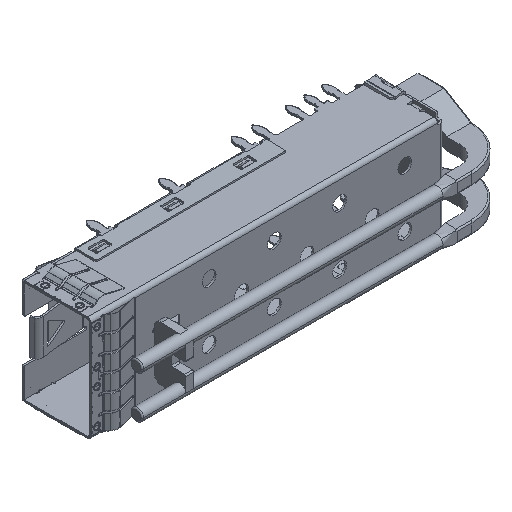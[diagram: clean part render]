
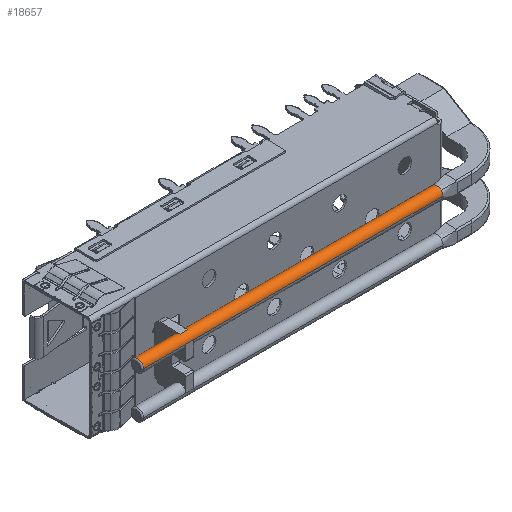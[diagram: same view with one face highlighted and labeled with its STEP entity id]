
A CAD part, isometric view. The second image highlights one B-rep face of the part: STEP entity #18657.
In plain terms, the highlighted cylindrical face has radius 0.825 mm (diameter 1.65 mm), a partial arc.
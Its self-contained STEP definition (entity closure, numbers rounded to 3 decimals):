
#465 = VECTOR ( 'NONE', #21842, 1000. ) ;
#508 = LINE ( 'NONE', #21865, #465 ) ;
#713 = VECTOR ( 'NONE', #22013, 1000. ) ;
#788 = LINE ( 'NONE', #22011, #713 ) ;
#805 = LINE ( 'NONE', #22063, #807 ) ;
#807 = VECTOR ( 'NONE', #22068, 1000. ) ;
#847 = VECTOR ( 'NONE', #22102, 1000. ) ;
#858 = LINE ( 'NONE', #22133, #847 ) ;
#916 = LINE ( 'NONE', #22343, #918 ) ;
#918 = VECTOR ( 'NONE', #22335, 1000. ) ;
#981 = CIRCLE ( 'NONE', #36423, 0.825 ) ;
#12606 = EDGE_LOOP ( 'NONE', ( #39783, #39707, #39687, #39705, #39825, #39767, #40016, #39817, #39701, #39709, #39802, #39792 ) ) ;
#13187 =( BOUNDED_CURVE ( )  B_SPLINE_CURVE ( 3, ( #60730, #60587, #60779, #60831 ),
 .UNSPECIFIED., .F., .F. ) 
 B_SPLINE_CURVE_WITH_KNOTS ( ( 4, 4 ),
 ( 4.712, 6.283 ),
 .UNSPECIFIED. ) 
 CURVE ( )  GEOMETRIC_REPRESENTATION_ITEM ( )  RATIONAL_B_SPLINE_CURVE ( ( 1., 0.805, 0.805, 1. ) ) 
 REPRESENTATION_ITEM ( '' )  );
#13612 = LINE ( 'NONE', #60629, #13647 ) ;
#13647 = VECTOR ( 'NONE', #60716, 1000. ) ;
#13746 = CIRCLE ( 'NONE', #18355, 0.825 ) ;
#13770 = CIRCLE ( 'NONE', #18385, 0.825 ) ;
#13874 = CIRCLE ( 'NONE', #18405, 0.825 ) ;
#13880 = CIRCLE ( 'NONE', #18346, 0.825 ) ;
#15932 = CARTESIAN_POINT ( 'NONE',  ( -43.32, 0., -7.042 ) ) ;
#15984 = CARTESIAN_POINT ( 'NONE',  ( -43.32, 1.65, -7.042 ) ) ;
#15986 = CARTESIAN_POINT ( 'NONE',  ( -36.37, 0., -7.042 ) ) ;
#16029 = CARTESIAN_POINT ( 'NONE',  ( -37.488, 1.65, -7.042 ) ) ;
#16037 = CARTESIAN_POINT ( 'NONE',  ( -37.445, 0., -7.042 ) ) ;
#16367 = CARTESIAN_POINT ( 'NONE',  ( -2., 1.65, -7.042 ) ) ;
#16383 = CARTESIAN_POINT ( 'NONE',  ( -36.37, 1.65, -7.042 ) ) ;
#16423 = CARTESIAN_POINT ( 'NONE',  ( -2., 0., -7.042 ) ) ;
#16467 = CARTESIAN_POINT ( 'NONE',  ( -36.37, 0.825, -7.867 ) ) ;
#16535 = CARTESIAN_POINT ( 'NONE',  ( -37.466, 0.825, -7.867 ) ) ;
#16573 = CARTESIAN_POINT ( 'NONE',  ( -2., 1.408, -7.626 ) ) ;
#16588 = CARTESIAN_POINT ( 'NONE',  ( -2., 0.242, -7.626 ) ) ;
#18346 = AXIS2_PLACEMENT_3D ( 'NONE', #40093, #40068, #40101 ) ;
#18355 = AXIS2_PLACEMENT_3D ( 'NONE', #39395, #39436, #39488 ) ;
#18385 = AXIS2_PLACEMENT_3D ( 'NONE', #39925, #39995, #39998 ) ;
#18405 = AXIS2_PLACEMENT_3D ( 'NONE', #40297, #40303, #40304 ) ;
#18657 = ADVANCED_FACE ( 'NONE', ( #20771 ), #20743, .T. ) ;
#20451 = EDGE_CURVE ( 'NONE', #57731, #57802, #508, .T. ) ;
#20517 = EDGE_CURVE ( 'NONE', #57753, #58330, #788, .T. ) ;
#20530 = EDGE_CURVE ( 'NONE', #57768, #57797, #805, .T. ) ;
#20547 = EDGE_CURVE ( 'NONE', #58321, #58255, #858, .T. ) ;
#20617 = EDGE_CURVE ( 'NONE', #57797, #58321, #916, .T. ) ;
#20626 = EDGE_CURVE ( 'NONE', #58387, #57753, #981, .T. ) ;
#20743 = CYLINDRICAL_SURFACE ( 'NONE', #39524, 0.825 ) ;
#20771 = FACE_OUTER_BOUND ( 'NONE', #12606, .T. ) ;
#21842 = DIRECTION ( 'NONE',  ( 1., 0., 0. ) ) ;
#21865 = CARTESIAN_POINT ( 'NONE',  ( -43.52, 0., -7.042 ) ) ;
#22011 = CARTESIAN_POINT ( 'NONE',  ( -43.52, 0., -7.042 ) ) ;
#22013 = DIRECTION ( 'NONE',  ( 1., 0., 0. ) ) ;
#22063 = CARTESIAN_POINT ( 'NONE',  ( -43.52, 1.65, -7.042 ) ) ;
#22068 = DIRECTION ( 'NONE',  ( 1., 0., 0. ) ) ;
#22102 = DIRECTION ( 'NONE',  ( 1., 0., 0. ) ) ;
#22133 = CARTESIAN_POINT ( 'NONE',  ( -43.52, 1.65, -7.042 ) ) ;
#22320 = CARTESIAN_POINT ( 'NONE',  ( -36.37, 0.825, -7.042 ) ) ;
#22325 = DIRECTION ( 'NONE',  ( -1., 0., 0. ) ) ;
#22326 = DIRECTION ( 'NONE',  ( 0., -1., 0. ) ) ;
#22335 = DIRECTION ( 'NONE',  ( 1., 0., 0. ) ) ;
#22343 = CARTESIAN_POINT ( 'NONE',  ( -37.37, 1.65, -7.042 ) ) ;
#36423 = AXIS2_PLACEMENT_3D ( 'NONE', #22320, #22325, #22326 ) ;
#39395 = CARTESIAN_POINT ( 'NONE',  ( -43.32, 0.825, -7.042 ) ) ;
#39436 = DIRECTION ( 'NONE',  ( 1., 0., 0. ) ) ;
#39488 = DIRECTION ( 'NONE',  ( 0., -1., 0. ) ) ;
#39524 = AXIS2_PLACEMENT_3D ( 'NONE', #46874, #46888, #46848 ) ;
#39687 = ORIENTED_EDGE ( 'NONE', *, *, #20530, .T. ) ;
#39701 = ORIENTED_EDGE ( 'NONE', *, *, #20517, .F. ) ;
#39705 = ORIENTED_EDGE ( 'NONE', *, *, #20617, .T. ) ;
#39707 = ORIENTED_EDGE ( 'NONE', *, *, #52698, .T. ) ;
#39709 = ORIENTED_EDGE ( 'NONE', *, *, #20626, .F. ) ;
#39767 = ORIENTED_EDGE ( 'NONE', *, *, #52782, .F. ) ;
#39783 = ORIENTED_EDGE ( 'NONE', *, *, #20451, .F. ) ;
#39792 = ORIENTED_EDGE ( 'NONE', *, *, #52615, .T. ) ;
#39802 = ORIENTED_EDGE ( 'NONE', *, *, #52600, .F. ) ;
#39817 = ORIENTED_EDGE ( 'NONE', *, *, #52800, .F. ) ;
#39825 = ORIENTED_EDGE ( 'NONE', *, *, #20547, .T. ) ;
#39925 = CARTESIAN_POINT ( 'NONE',  ( -2., 0.825, -7.042 ) ) ;
#39995 = DIRECTION ( 'NONE',  ( 1., 0., 0. ) ) ;
#39998 = DIRECTION ( 'NONE',  ( 0., -1., 0. ) ) ;
#40016 = ORIENTED_EDGE ( 'NONE', *, *, #52770, .F. ) ;
#40068 = DIRECTION ( 'NONE',  ( 1., 0., 0. ) ) ;
#40093 = CARTESIAN_POINT ( 'NONE',  ( -2., 0.825, -7.042 ) ) ;
#40101 = DIRECTION ( 'NONE',  ( 0., -1., 0. ) ) ;
#40297 = CARTESIAN_POINT ( 'NONE',  ( -2., 0.825, -7.042 ) ) ;
#40303 = DIRECTION ( 'NONE',  ( 1., 0., 0. ) ) ;
#40304 = DIRECTION ( 'NONE',  ( 0., -1., 0. ) ) ;
#46848 = DIRECTION ( 'NONE',  ( 0., 1., 0. ) ) ;
#46874 = CARTESIAN_POINT ( 'NONE',  ( -43.52, 0.825, -7.042 ) ) ;
#46888 = DIRECTION ( 'NONE',  ( 1., 0., 0. ) ) ;
#52600 = EDGE_CURVE ( 'NONE', #58477, #58387, #13612, .T. ) ;
#52615 = EDGE_CURVE ( 'NONE', #58477, #57802, #13187, .T. ) ;
#52698 = EDGE_CURVE ( 'NONE', #57731, #57768, #13746, .T. ) ;
#52770 = EDGE_CURVE ( 'NONE', #58542, #58527, #13770, .T. ) ;
#52782 = EDGE_CURVE ( 'NONE', #58527, #58255, #13880, .T. ) ;
#52800 = EDGE_CURVE ( 'NONE', #58330, #58542, #13874, .T. ) ;
#57731 = VERTEX_POINT ( 'NONE', #15932 ) ;
#57753 = VERTEX_POINT ( 'NONE', #15986 ) ;
#57768 = VERTEX_POINT ( 'NONE', #15984 ) ;
#57797 = VERTEX_POINT ( 'NONE', #16029 ) ;
#57802 = VERTEX_POINT ( 'NONE', #16037 ) ;
#58255 = VERTEX_POINT ( 'NONE', #16367 ) ;
#58321 = VERTEX_POINT ( 'NONE', #16383 ) ;
#58330 = VERTEX_POINT ( 'NONE', #16423 ) ;
#58387 = VERTEX_POINT ( 'NONE', #16467 ) ;
#58477 = VERTEX_POINT ( 'NONE', #16535 ) ;
#58527 = VERTEX_POINT ( 'NONE', #16573 ) ;
#58542 = VERTEX_POINT ( 'NONE', #16588 ) ;
#60587 = CARTESIAN_POINT ( 'NONE',  ( -37.454, 0.342, -7.867 ) ) ;
#60629 = CARTESIAN_POINT ( 'NONE',  ( -37.37, 0.825, -7.867 ) ) ;
#60716 = DIRECTION ( 'NONE',  ( 1., 0., 0. ) ) ;
#60730 = CARTESIAN_POINT ( 'NONE',  ( -37.466, 0.825, -7.867 ) ) ;
#60779 = CARTESIAN_POINT ( 'NONE',  ( -37.445, 0., -7.526 ) ) ;
#60831 = CARTESIAN_POINT ( 'NONE',  ( -37.445, 0., -7.042 ) ) ;
